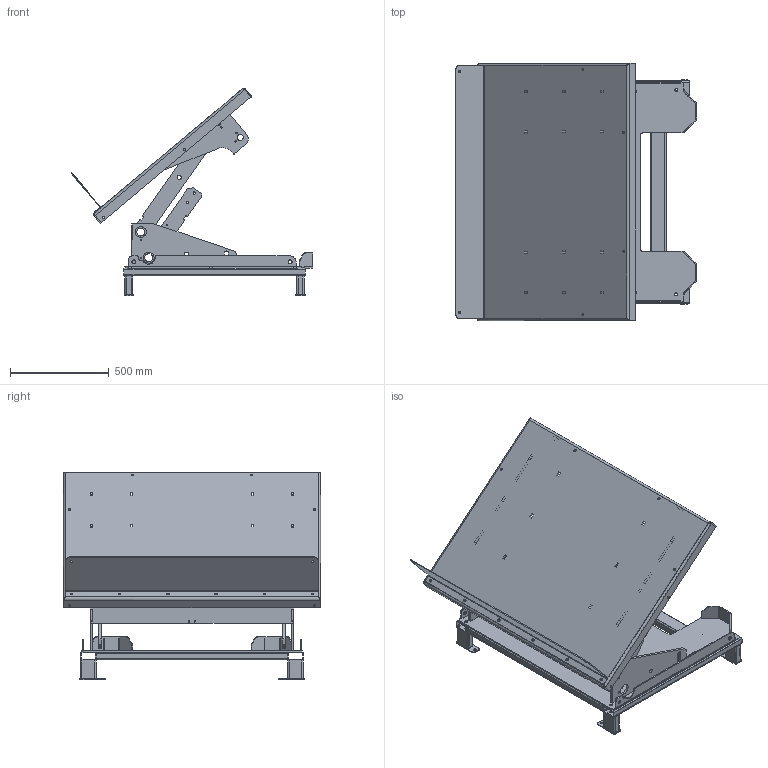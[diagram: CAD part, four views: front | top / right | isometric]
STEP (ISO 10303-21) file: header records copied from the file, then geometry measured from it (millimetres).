
FILE_DESCRIPTION(/* description */ (''),/* implementation_level */ '2;1');
FILE_NAME(/* name */ 'C:\Autodesk_VaultWork\Ritningar\Exporterade modeller\ART 1500GV - (22113)\22113_Raised_40Degrees.stp',/* time_stamp */ '2019-12-20T12:04:47+01:00',/* author */ ('johso'),/* organization */ (''),/* preprocessor_version */ 'ST-DEVELOPER v16.5',/* originating_system */ 'Autodesk Inventor 2017',/* authorisation */ '');
FILE_SCHEMA (('AUTOMOTIVE_DESIGN { 1 0 10303 214 3 1 1 }'));
Length unit declared in the file: millimetre
Products named in the file (9): Assembly24; 22023_Raised_40Degrees; 35398; 45274; 82153 - 96; 45273-1; 82153 - 968; 82153 - 917; 82153 - 917_1
Assembly tree (12 placements, depth 4):
  Assembly24
    22023_Raised_40Degrees
    35398
      45274  x4
        82153 - 96
        45273-1
      82153 - 968  x2
      82153 - 917
      82153 - 917_1
Bounding box: 1222.14 x 1300 x 1048.84 mm (x, y, z)
Volume: 26499138.9 mm3; surface area: 8943912.5 mm2
Topology: 28 solids, 28 shells, 1634 faces, 4670 edges, 3096 vertices
Faces by surface type: cylinder 1004, plane 622, bspline 8
Full cylindrical faces by diameter (mm): 5.7 x2, 6.9 x4, 7.4 x16, 8.5 x2, 11 x4, 12 x12, 12.5 x12, 13 x12, 15 x4, 20 x6, 30.2 x4
Entity records: 49642 total; most frequent: DIRECTION 8968, CARTESIAN_POINT 8786, ORIENTED_EDGE 8316, EDGE_CURVE 4158, AXIS2_PLACEMENT_3D 3332, VERTEX_POINT 2798, LINE 2304, VECTOR 2304
